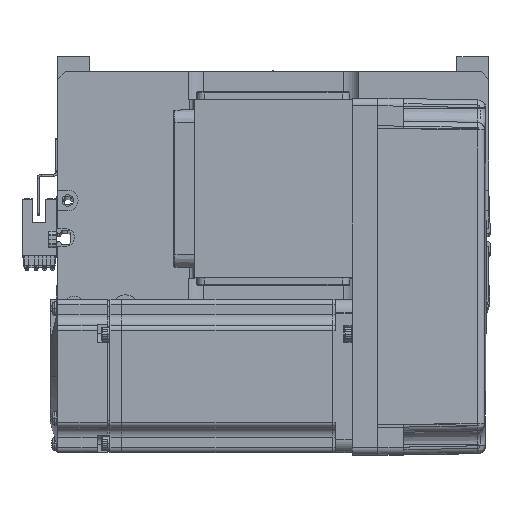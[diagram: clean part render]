
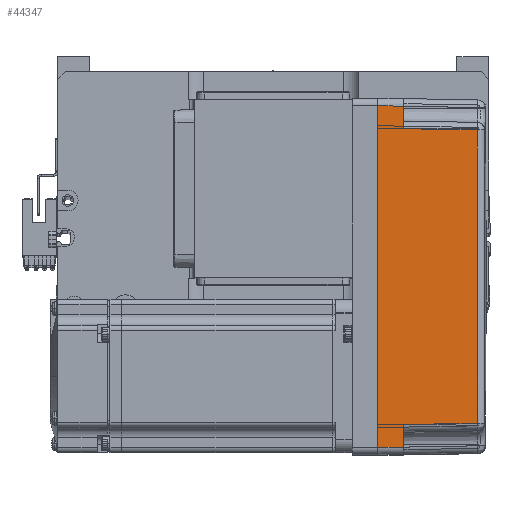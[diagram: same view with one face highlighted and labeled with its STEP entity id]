
A CAD part, top view. The second image highlights one B-rep face of the part: STEP entity #44347.
In plain terms, the highlighted planar face has unit normal (0.018, 0, 1) as drawn and (0, 1, 0.017) by its records, which use the part's own axes.
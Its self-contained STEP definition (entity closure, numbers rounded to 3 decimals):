
#489 = EDGE_CURVE ( 'NONE', #1383, #61542, #41942, .T. ) ;
#1383 = VERTEX_POINT ( 'NONE', #38784 ) ;
#1746 = ORIENTED_EDGE ( 'NONE', *, *, #489, .T. ) ;
#2703 = VERTEX_POINT ( 'NONE', #51249 ) ;
#3241 = ORIENTED_EDGE ( 'NONE', *, *, #34180, .T. ) ;
#3254 = VERTEX_POINT ( 'NONE', #55668 ) ;
#4260 = EDGE_LOOP ( 'NONE', ( #1746, #3241, #21623, #37954, #40261, #6878, #30478, #20764 ) ) ;
#4453 = FACE_OUTER_BOUND ( 'NONE', #4260, .T. ) ;
#6214 = B_SPLINE_CURVE_WITH_KNOTS ( 'NONE', 3,
 ( #11512, #31015, #16154, #30427 ),
 .UNSPECIFIED., .F., .F.,
 ( 4, 4 ),
 ( 0., 1. ),
 .UNSPECIFIED. ) ;
#6381 = VERTEX_POINT ( 'NONE', #48028 ) ;
#6745 = EDGE_CURVE ( 'NONE', #1383, #6381, #59209, .T. ) ;
#6878 = ORIENTED_EDGE ( 'NONE', *, *, #30985, .T. ) ;
#7470 = DIRECTION ( 'NONE',  ( 1., 0., 0. ) ) ;
#7586 = EDGE_CURVE ( 'NONE', #3254, #57760, #6214, .T. ) ;
#8138 = VECTOR ( 'NONE', #46439, 1000. ) ;
#9470 = VECTOR ( 'NONE', #45490, 1000. ) ;
#11512 = CARTESIAN_POINT ( 'NONE',  ( -57.495, 35.32, 38.985 ) ) ;
#14959 = LINE ( 'NONE', #31012, #57080 ) ;
#16154 = CARTESIAN_POINT ( 'NONE',  ( 19.165, 35.316, 39.181 ) ) ;
#16279 = CARTESIAN_POINT ( 'NONE',  ( 57.495, 35.32, 38.985 ) ) ;
#17323 = CARTESIAN_POINT ( 'NONE',  ( 70., 35.825, 10. ) ) ;
#18004 = CARTESIAN_POINT ( 'NONE',  ( 58., 35.825, 10. ) ) ;
#20144 = VECTOR ( 'NONE', #30863, 1000. ) ;
#20764 = ORIENTED_EDGE ( 'NONE', *, *, #6745, .F. ) ;
#21197 = DIRECTION ( 'NONE',  ( -0.017, -0.017, 1. ) ) ;
#21623 = ORIENTED_EDGE ( 'NONE', *, *, #56535, .T. ) ;
#24660 = CARTESIAN_POINT ( 'NONE',  ( -66.826, 35.825, 10. ) ) ;
#30427 = CARTESIAN_POINT ( 'NONE',  ( 57.495, 35.32, 38.985 ) ) ;
#30478 = ORIENTED_EDGE ( 'NONE', *, *, #52138, .F. ) ;
#30863 = DIRECTION ( 'NONE',  ( 0.017, -0.017, 1. ) ) ;
#30985 = EDGE_CURVE ( 'NONE', #58015, #2703, #35664, .T. ) ;
#31012 = CARTESIAN_POINT ( 'NONE',  ( 67.001, 36.001, -0.052 ) ) ;
#31015 = CARTESIAN_POINT ( 'NONE',  ( -19.165, 35.316, 39.181 ) ) ;
#32214 = VECTOR ( 'NONE', #7470, 1000. ) ;
#34180 = EDGE_CURVE ( 'NONE', #61542, #48686, #58564, .T. ) ;
#35043 = LINE ( 'NONE', #16279, #9470 ) ;
#35171 = LINE ( 'NONE', #50837, #8138 ) ;
#35664 = LINE ( 'NONE', #56907, #49257 ) ;
#36377 = DIRECTION ( 'NONE',  ( 0., -0.017, 1. ) ) ;
#37954 = ORIENTED_EDGE ( 'NONE', *, *, #7586, .T. ) ;
#38418 = CARTESIAN_POINT ( 'NONE',  ( 57.495, 35.32, 38.985 ) ) ;
#38784 = CARTESIAN_POINT ( 'NONE',  ( -67., 36., 0. ) ) ;
#40261 = ORIENTED_EDGE ( 'NONE', *, *, #48247, .T. ) ;
#41160 = CARTESIAN_POINT ( 'NONE',  ( -58., 35.825, 10. ) ) ;
#41654 = PLANE ( 'NONE',  #55776 ) ;
#41942 = LINE ( 'NONE', #50629, #20144 ) ;
#44145 = VECTOR ( 'NONE', #56164, 1000. ) ;
#44347 = ADVANCED_FACE ( 'NONE', ( #4453 ), #41654, .T. ) ;
#45490 = DIRECTION ( 'NONE',  ( 0.017, 0.017, -1. ) ) ;
#46078 = CARTESIAN_POINT ( 'NONE',  ( 0., 36., 0. ) ) ;
#46439 = DIRECTION ( 'NONE',  ( 0.017, -0.017, 1. ) ) ;
#48028 = CARTESIAN_POINT ( 'NONE',  ( 67., 36., 0. ) ) ;
#48247 = EDGE_CURVE ( 'NONE', #57760, #58015, #35043, .T. ) ;
#48686 = VERTEX_POINT ( 'NONE', #41160 ) ;
#49257 = VECTOR ( 'NONE', #61943, 1000. ) ;
#50629 = CARTESIAN_POINT ( 'NONE',  ( -67., 36., 0. ) ) ;
#50837 = CARTESIAN_POINT ( 'NONE',  ( -58., 35.825, 10. ) ) ;
#51249 = CARTESIAN_POINT ( 'NONE',  ( 66.826, 35.825, 10. ) ) ;
#51289 = CARTESIAN_POINT ( 'NONE',  ( 70., 36., 0. ) ) ;
#52138 = EDGE_CURVE ( 'NONE', #6381, #2703, #14959, .T. ) ;
#55668 = CARTESIAN_POINT ( 'NONE',  ( -57.495, 35.32, 38.985 ) ) ;
#55744 = DIRECTION ( 'NONE',  ( 0., 1., 0.017 ) ) ;
#55776 = AXIS2_PLACEMENT_3D ( 'NONE', #51289, #55744, #36377 ) ;
#56164 = DIRECTION ( 'NONE',  ( 1., 0., 0. ) ) ;
#56535 = EDGE_CURVE ( 'NONE', #48686, #3254, #35171, .T. ) ;
#56907 = CARTESIAN_POINT ( 'NONE',  ( 70., 35.825, 10. ) ) ;
#57080 = VECTOR ( 'NONE', #21197, 1000. ) ;
#57760 = VERTEX_POINT ( 'NONE', #38418 ) ;
#58015 = VERTEX_POINT ( 'NONE', #18004 ) ;
#58564 = LINE ( 'NONE', #17323, #32214 ) ;
#59209 = LINE ( 'NONE', #46078, #44145 ) ;
#61542 = VERTEX_POINT ( 'NONE', #24660 ) ;
#61943 = DIRECTION ( 'NONE',  ( 1., 0., 0. ) ) ;
